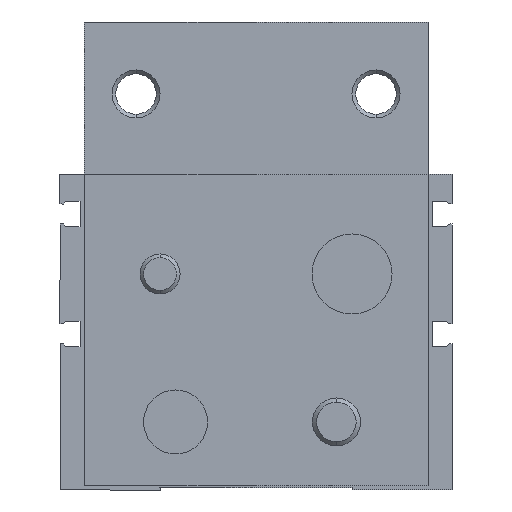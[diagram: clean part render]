
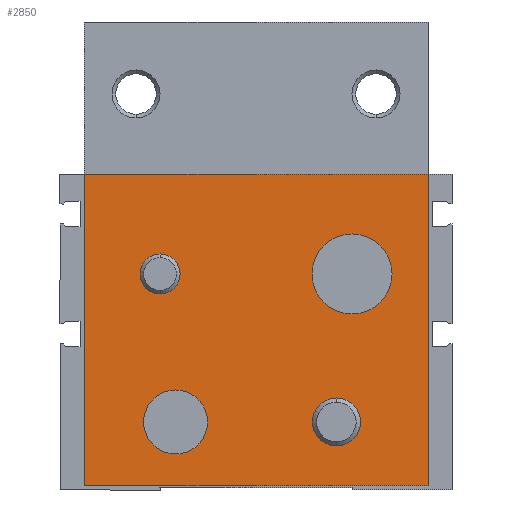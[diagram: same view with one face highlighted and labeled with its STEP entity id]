
A CAD part, left-side view. The second image highlights one B-rep face of the part: STEP entity #2850.
In plain terms, the highlighted planar face has unit normal (-1, 0, 0) as drawn and (1, 0, 0) by its records, which use the part's own axes.
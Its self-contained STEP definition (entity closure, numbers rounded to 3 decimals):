
#25 = VERTEX_POINT ( 'NONE', #5738 ) ;
#79 = DIRECTION ( 'NONE',  ( 0., 0., -1. ) ) ;
#84 = ORIENTED_EDGE ( 'NONE', *, *, #2514, .F. ) ;
#85 = CARTESIAN_POINT ( 'NONE',  ( 28., -20.1, -22.5 ) ) ;
#124 = CARTESIAN_POINT ( 'NONE',  ( 28., -43., 39.5 ) ) ;
#145 = DIRECTION ( 'NONE',  ( 1., 0., 0. ) ) ;
#196 = FACE_OUTER_BOUND ( 'NONE', #4901, .T. ) ;
#239 = DIRECTION ( 'NONE',  ( 0., 0., -1. ) ) ;
#240 = CIRCLE ( 'NONE', #4918, 10. ) ;
#270 = LINE ( 'NONE', #124, #2023 ) ;
#284 = AXIS2_PLACEMENT_3D ( 'NONE', #1807, #1414, #79 ) ;
#295 = DIRECTION ( 'NONE',  ( 0., 0., -1. ) ) ;
#338 = AXIS2_PLACEMENT_3D ( 'NONE', #5207, #2981, #295 ) ;
#353 = ORIENTED_EDGE ( 'NONE', *, *, #2594, .T. ) ;
#376 = VERTEX_POINT ( 'NONE', #3691 ) ;
#397 = DIRECTION ( 'NONE',  ( 0., 1., 0. ) ) ;
#464 = VERTEX_POINT ( 'NONE', #3245 ) ;
#627 = LINE ( 'NONE', #1894, #2653 ) ;
#639 = DIRECTION ( 'NONE',  ( 1., 0., 0. ) ) ;
#681 = VERTEX_POINT ( 'NONE', #876 ) ;
#876 = CARTESIAN_POINT ( 'NONE',  ( 28., -43., 39.5 ) ) ;
#941 = VERTEX_POINT ( 'NONE', #2855 ) ;
#981 = ORIENTED_EDGE ( 'NONE', *, *, #1641, .F. ) ;
#1241 = CARTESIAN_POINT ( 'NONE',  ( 28., 24., 24.5 ) ) ;
#1261 = AXIS2_PLACEMENT_3D ( 'NONE', #85, #1334, #3630 ) ;
#1282 = ORIENTED_EDGE ( 'NONE', *, *, #3878, .F. ) ;
#1306 = VERTEX_POINT ( 'NONE', #1399 ) ;
#1308 = FACE_BOUND ( 'NONE', #4907, .T. ) ;
#1313 = CIRCLE ( 'NONE', #1261, 8. ) ;
#1322 = AXIS2_PLACEMENT_3D ( 'NONE', #4201, #2417, #5534 ) ;
#1334 = DIRECTION ( 'NONE',  ( 1., 0., 0. ) ) ;
#1399 = CARTESIAN_POINT ( 'NONE',  ( 28., 43., -38.5 ) ) ;
#1414 = DIRECTION ( 'NONE',  ( 1., 0., 0. ) ) ;
#1481 = EDGE_CURVE ( 'NONE', #4006, #3448, #3883, .T. ) ;
#1483 = EDGE_CURVE ( 'NONE', #464, #5789, #240, .T. ) ;
#1532 = FACE_BOUND ( 'NONE', #3343, .T. ) ;
#1586 = CARTESIAN_POINT ( 'NONE',  ( 28., -20.1, -14.5 ) ) ;
#1641 = EDGE_CURVE ( 'NONE', #376, #5284, #1991, .T. ) ;
#1807 = CARTESIAN_POINT ( 'NONE',  ( 28., 20.1, -22.5 ) ) ;
#1877 = DIRECTION ( 'NONE',  ( 0., 0., -1. ) ) ;
#1894 = CARTESIAN_POINT ( 'NONE',  ( 28., 43., -38.5 ) ) ;
#1912 = VERTEX_POINT ( 'NONE', #4485 ) ;
#1941 = EDGE_CURVE ( 'NONE', #5284, #376, #3525, .T. ) ;
#1991 = CIRCLE ( 'NONE', #1322, 6. ) ;
#2023 = VECTOR ( 'NONE', #4160, 1000. ) ;
#2081 = CIRCLE ( 'NONE', #5029, 10. ) ;
#2236 = CARTESIAN_POINT ( 'NONE',  ( 28., -24., 19.5 ) ) ;
#2249 = AXIS2_PLACEMENT_3D ( 'NONE', #5547, #639, #239 ) ;
#2373 = CARTESIAN_POINT ( 'NONE',  ( 28., 24., 14.5 ) ) ;
#2380 = EDGE_CURVE ( 'NONE', #1306, #941, #5647, .T. ) ;
#2415 = EDGE_CURVE ( 'NONE', #3448, #4006, #1313, .T. ) ;
#2417 = DIRECTION ( 'NONE',  ( 1., 0., 0. ) ) ;
#2430 = ORIENTED_EDGE ( 'NONE', *, *, #1483, .F. ) ;
#2482 = ORIENTED_EDGE ( 'NONE', *, *, #4105, .F. ) ;
#2514 = EDGE_CURVE ( 'NONE', #25, #1306, #627, .T. ) ;
#2574 = EDGE_CURVE ( 'NONE', #25, #681, #270, .T. ) ;
#2588 = ORIENTED_EDGE ( 'NONE', *, *, #1481, .F. ) ;
#2594 = EDGE_CURVE ( 'NONE', #681, #941, #4812, .T. ) ;
#2653 = VECTOR ( 'NONE', #5098, 1000. ) ;
#2788 = VECTOR ( 'NONE', #3702, 1000. ) ;
#2808 = CARTESIAN_POINT ( 'NONE',  ( 28., -43., 39.5 ) ) ;
#2850 = ADVANCED_FACE ( 'NONE', ( #196, #5024, #4118, #1532, #1308 ), #3100, .T. ) ;
#2855 = CARTESIAN_POINT ( 'NONE',  ( 28., -43., -38.5 ) ) ;
#2981 = DIRECTION ( 'NONE',  ( 1., 0., 0. ) ) ;
#3100 = PLANE ( 'NONE',  #4675 ) ;
#3161 = DIRECTION ( 'NONE',  ( 0., -1., 0. ) ) ;
#3245 = CARTESIAN_POINT ( 'NONE',  ( 28., 24., 4.5 ) ) ;
#3273 = ORIENTED_EDGE ( 'NONE', *, *, #2380, .F. ) ;
#3343 = EDGE_LOOP ( 'NONE', ( #4669, #981 ) ) ;
#3348 = ORIENTED_EDGE ( 'NONE', *, *, #2574, .T. ) ;
#3448 = VERTEX_POINT ( 'NONE', #1586 ) ;
#3525 = CIRCLE ( 'NONE', #284, 6. ) ;
#3598 = CARTESIAN_POINT ( 'NONE',  ( 28., 20.1, -16.5 ) ) ;
#3630 = DIRECTION ( 'NONE',  ( 0., 0., -1. ) ) ;
#3652 = EDGE_LOOP ( 'NONE', ( #4631, #2588 ) ) ;
#3691 = CARTESIAN_POINT ( 'NONE',  ( 28., 20.1, -28.5 ) ) ;
#3696 = VERTEX_POINT ( 'NONE', #2236 ) ;
#3702 = DIRECTION ( 'NONE',  ( 0., 0., -1. ) ) ;
#3833 = EDGE_CURVE ( 'NONE', #5789, #464, #2081, .T. ) ;
#3857 = CARTESIAN_POINT ( 'NONE',  ( 28., -20.1, -30.5 ) ) ;
#3878 = EDGE_CURVE ( 'NONE', #1912, #3696, #4602, .T. ) ;
#3883 = CIRCLE ( 'NONE', #3911, 8. ) ;
#3911 = AXIS2_PLACEMENT_3D ( 'NONE', #5462, #145, #1877 ) ;
#4006 = VERTEX_POINT ( 'NONE', #3857 ) ;
#4092 = DIRECTION ( 'NONE',  ( 1., 0., 0. ) ) ;
#4098 = DIRECTION ( 'NONE',  ( 1., 0., 0. ) ) ;
#4105 = EDGE_CURVE ( 'NONE', #3696, #1912, #5155, .T. ) ;
#4118 = FACE_BOUND ( 'NONE', #3652, .T. ) ;
#4156 = DIRECTION ( 'NONE',  ( 0., 0., -1. ) ) ;
#4160 = DIRECTION ( 'NONE',  ( 0., -1., 0. ) ) ;
#4201 = CARTESIAN_POINT ( 'NONE',  ( 28., 20.1, -22.5 ) ) ;
#4402 = VECTOR ( 'NONE', #3161, 1000. ) ;
#4485 = CARTESIAN_POINT ( 'NONE',  ( 28., -24., 9.5 ) ) ;
#4511 = CARTESIAN_POINT ( 'NONE',  ( 28., 43., -38.5 ) ) ;
#4571 = DIRECTION ( 'NONE',  ( 0., 0., -1. ) ) ;
#4602 = CIRCLE ( 'NONE', #2249, 5. ) ;
#4631 = ORIENTED_EDGE ( 'NONE', *, *, #2415, .F. ) ;
#4669 = ORIENTED_EDGE ( 'NONE', *, *, #1941, .F. ) ;
#4675 = AXIS2_PLACEMENT_3D ( 'NONE', #5360, #5765, #397 ) ;
#4812 = LINE ( 'NONE', #2808, #2788 ) ;
#4901 = EDGE_LOOP ( 'NONE', ( #353, #3273, #84, #3348 ) ) ;
#4907 = EDGE_LOOP ( 'NONE', ( #2482, #1282 ) ) ;
#4918 = AXIS2_PLACEMENT_3D ( 'NONE', #4999, #4098, #4571 ) ;
#4999 = CARTESIAN_POINT ( 'NONE',  ( 28., 24., 14.5 ) ) ;
#5024 = FACE_BOUND ( 'NONE', #5166, .T. ) ;
#5029 = AXIS2_PLACEMENT_3D ( 'NONE', #2373, #4092, #4156 ) ;
#5098 = DIRECTION ( 'NONE',  ( 0., 0., -1. ) ) ;
#5155 = CIRCLE ( 'NONE', #338, 5. ) ;
#5166 = EDGE_LOOP ( 'NONE', ( #5542, #2430 ) ) ;
#5207 = CARTESIAN_POINT ( 'NONE',  ( 28., -24., 14.5 ) ) ;
#5284 = VERTEX_POINT ( 'NONE', #3598 ) ;
#5360 = CARTESIAN_POINT ( 'NONE',  ( 28., -43., -38.5 ) ) ;
#5462 = CARTESIAN_POINT ( 'NONE',  ( 28., -20.1, -22.5 ) ) ;
#5534 = DIRECTION ( 'NONE',  ( 0., 0., -1. ) ) ;
#5542 = ORIENTED_EDGE ( 'NONE', *, *, #3833, .F. ) ;
#5547 = CARTESIAN_POINT ( 'NONE',  ( 28., -24., 14.5 ) ) ;
#5647 = LINE ( 'NONE', #4511, #4402 ) ;
#5738 = CARTESIAN_POINT ( 'NONE',  ( 28., 43., 39.5 ) ) ;
#5765 = DIRECTION ( 'NONE',  ( 1., 0., 0. ) ) ;
#5789 = VERTEX_POINT ( 'NONE', #1241 ) ;
